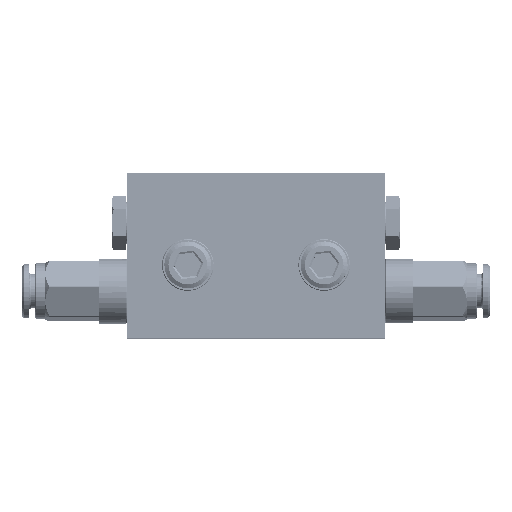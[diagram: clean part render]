
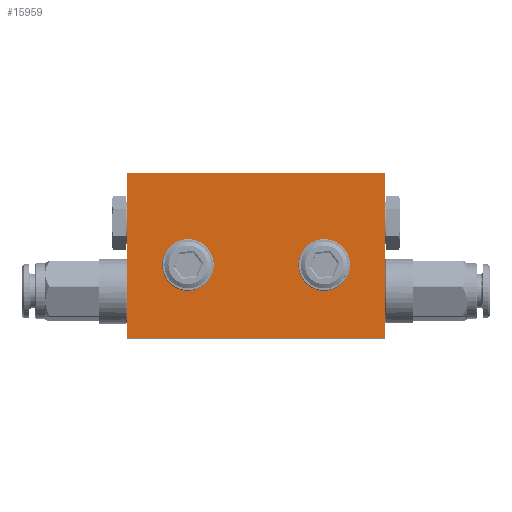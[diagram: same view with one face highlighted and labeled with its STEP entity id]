
A CAD part, top view. The second image highlights one B-rep face of the part: STEP entity #15959.
In plain terms, the highlighted planar face has unit normal (0, 0, 1) as drawn and (0, 0, -1) by its records, which use the part's own axes.
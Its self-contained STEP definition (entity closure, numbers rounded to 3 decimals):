
#87 = DIRECTION ( 'NONE',  ( 1., 0., 0. ) ) ;
#1068 = VERTEX_POINT ( 'NONE', #16026 ) ;
#2292 = FACE_BOUND ( 'NONE', #47363, .T. ) ;
#2736 = ORIENTED_EDGE ( 'NONE', *, *, #3730, .F. ) ;
#2918 = CARTESIAN_POINT ( 'NONE',  ( -27.5, 0., -4.85 ) ) ;
#2965 = CARTESIAN_POINT ( 'NONE',  ( 0., 0., -4.85 ) ) ;
#3730 = EDGE_CURVE ( 'NONE', #7934, #25646, #21600, .T. ) ;
#4159 = CARTESIAN_POINT ( 'NONE',  ( 27.5, -35., -4.85 ) ) ;
#4466 = DIRECTION ( 'NONE',  ( 1., 0., 0. ) ) ;
#4635 = CARTESIAN_POINT ( 'NONE',  ( -27.5, 0., -4.85 ) ) ;
#5460 = DIRECTION ( 'NONE',  ( -1., 0., 0. ) ) ;
#6872 = LINE ( 'NONE', #2918, #37980 ) ;
#7626 = VECTOR ( 'NONE', #87, 1000. ) ;
#7847 = ORIENTED_EDGE ( 'NONE', *, *, #25549, .F. ) ;
#7934 = VERTEX_POINT ( 'NONE', #30997 ) ;
#8402 = DIRECTION ( 'NONE',  ( 0., 0., -1. ) ) ;
#9271 = VERTEX_POINT ( 'NONE', #4159 ) ;
#9653 = PLANE ( 'NONE',  #41442 ) ;
#10150 = VECTOR ( 'NONE', #17900, 1000. ) ;
#12803 = VECTOR ( 'NONE', #35041, 1000. ) ;
#13341 = FACE_BOUND ( 'NONE', #30190, .T. ) ;
#13525 = CARTESIAN_POINT ( 'NONE',  ( 14.5, -15.5, -4.85 ) ) ;
#15959 = ADVANCED_FACE ( 'NONE', ( #13341, #2292, #24559 ), #9653, .F. ) ;
#16026 = CARTESIAN_POINT ( 'NONE',  ( 11.4, -15.5, -4.85 ) ) ;
#17133 = ORIENTED_EDGE ( 'NONE', *, *, #22236, .F. ) ;
#17900 = DIRECTION ( 'NONE',  ( -1., 0., 0. ) ) ;
#18198 = CIRCLE ( 'NONE', #47915, 3.1 ) ;
#18975 = CIRCLE ( 'NONE', #33839, 3.1 ) ;
#20597 = LINE ( 'NONE', #35554, #12803 ) ;
#20645 = EDGE_CURVE ( 'NONE', #25095, #25095, #18975, .T. ) ;
#21600 = LINE ( 'NONE', #2965, #10150 ) ;
#22236 = EDGE_CURVE ( 'NONE', #9271, #7934, #20597, .T. ) ;
#23810 = CARTESIAN_POINT ( 'NONE',  ( -27.5, -35., -4.85 ) ) ;
#23915 = VERTEX_POINT ( 'NONE', #23810 ) ;
#24559 = FACE_OUTER_BOUND ( 'NONE', #26219, .T. ) ;
#25095 = VERTEX_POINT ( 'NONE', #42987 ) ;
#25549 = EDGE_CURVE ( 'NONE', #25646, #23915, #6872, .T. ) ;
#25646 = VERTEX_POINT ( 'NONE', #4635 ) ;
#26219 = EDGE_LOOP ( 'NONE', ( #34230, #7847, #2736, #17133 ) ) ;
#26969 = CARTESIAN_POINT ( 'NONE',  ( -14.5, -15.5, -4.85 ) ) ;
#27712 = ORIENTED_EDGE ( 'NONE', *, *, #20645, .F. ) ;
#30190 = EDGE_LOOP ( 'NONE', ( #27712 ) ) ;
#30997 = CARTESIAN_POINT ( 'NONE',  ( 27.5, 0., -4.85 ) ) ;
#33625 = LINE ( 'NONE', #34110, #7626 ) ;
#33827 = EDGE_CURVE ( 'NONE', #1068, #1068, #18198, .T. ) ;
#33839 = AXIS2_PLACEMENT_3D ( 'NONE', #26969, #8402, #4466 ) ;
#34110 = CARTESIAN_POINT ( 'NONE',  ( 0., -35., -4.85 ) ) ;
#34230 = ORIENTED_EDGE ( 'NONE', *, *, #47960, .F. ) ;
#34814 = DIRECTION ( 'NONE',  ( 0., 0., -1. ) ) ;
#35041 = DIRECTION ( 'NONE',  ( 0., 1., 0. ) ) ;
#35554 = CARTESIAN_POINT ( 'NONE',  ( 27.5, 0., -4.85 ) ) ;
#37980 = VECTOR ( 'NONE', #44054, 1000. ) ;
#39513 = DIRECTION ( 'NONE',  ( 1., 0., 0. ) ) ;
#41442 = AXIS2_PLACEMENT_3D ( 'NONE', #44320, #47973, #39513 ) ;
#42987 = CARTESIAN_POINT ( 'NONE',  ( -11.4, -15.5, -4.85 ) ) ;
#44054 = DIRECTION ( 'NONE',  ( 0., -1., 0. ) ) ;
#44320 = CARTESIAN_POINT ( 'NONE',  ( 0., 0., -4.85 ) ) ;
#47363 = EDGE_LOOP ( 'NONE', ( #47898 ) ) ;
#47898 = ORIENTED_EDGE ( 'NONE', *, *, #33827, .F. ) ;
#47915 = AXIS2_PLACEMENT_3D ( 'NONE', #13525, #34814, #5460 ) ;
#47960 = EDGE_CURVE ( 'NONE', #23915, #9271, #33625, .T. ) ;
#47973 = DIRECTION ( 'NONE',  ( 0., 0., 1. ) ) ;
